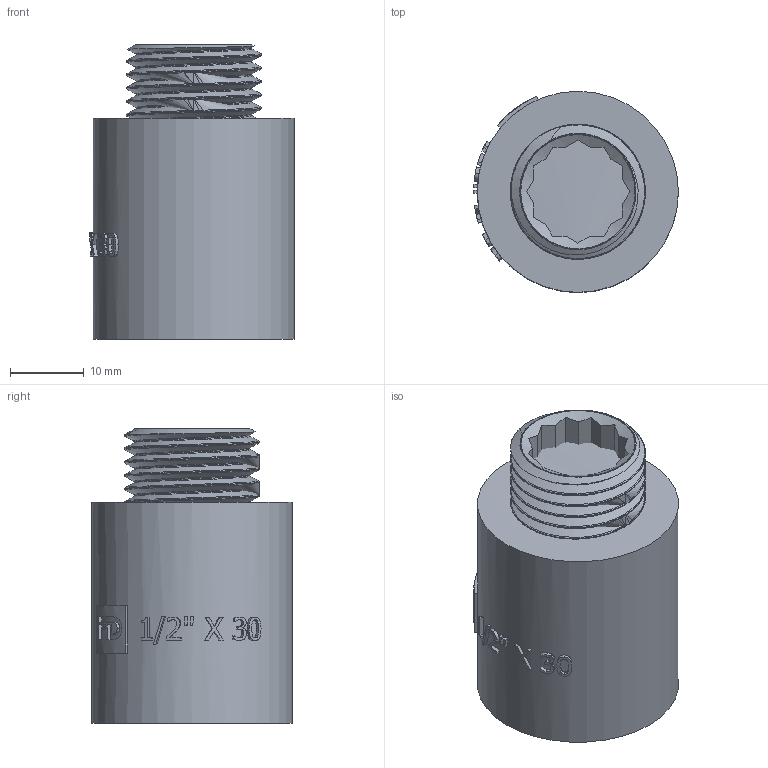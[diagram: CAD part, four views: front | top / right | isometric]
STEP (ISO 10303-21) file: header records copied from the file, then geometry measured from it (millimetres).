
FILE_DESCRIPTION(/* description */ (''),/* implementation_level */ '2;1');
FILE_NAME(/* name */ 'C:\Users\Doom\Desktop\Фадотех\Резьба\UD30 18.03.2020\UD30 18.03.2020.stp',/* time_stamp */ '2022-01-22T11:23:35+02:00',/* author */ ('Doom'),/* organization */ (''),/* preprocessor_version */ 'ST-DEVELOPER v18',/* originating_system */ 'Autodesk Inventor 2020',/* authorisation */ '');
FILE_SCHEMA (('AUTOMOTIVE_DESIGN { 1 0 10303 214 3 1 1 }'));
Length unit declared in the file: millimetre
Products named in the file (1): UD30 18.03.2020
Bounding box: 27.8 x 27.3 x 40 mm (x, y, z)
Volume: 12275.1 mm3; surface area: 11346.3 mm2
Topology: 3 solids, 3 shells, 202 faces, 549 edges, 366 vertices
Faces by surface type: plane 84, bspline 74, cylinder 41, cone 3
Full cylindrical faces by diameter (mm): 15.649 x2, 16.858 x1, 18.26 x12, 18.34 x6, 20.95 x2, 21.5 x1, 27.3 x1
Entity records: 15813 total; most frequent: CARTESIAN_POINT 11317, ORIENTED_EDGE 1090, DIRECTION 660, EDGE_CURVE 545, VERTEX_POINT 364, AXIS2_PLACEMENT_3D 228, EDGE_LOOP 223, LINE 204
